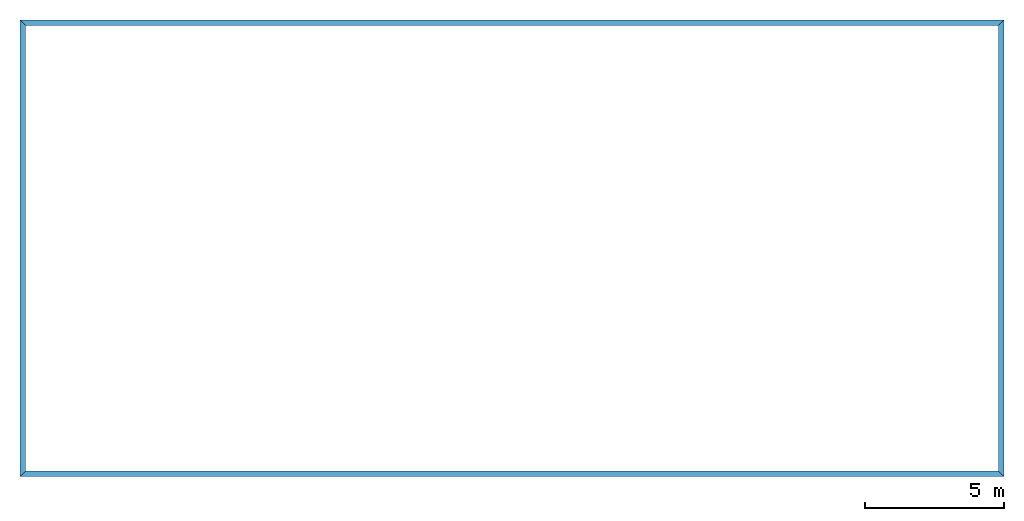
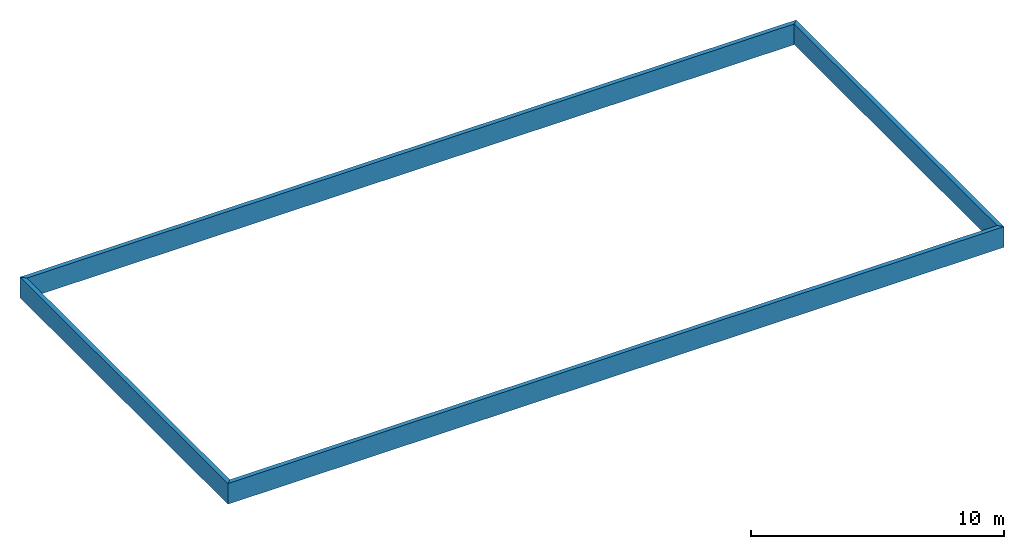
# One storey: 4 walls.
"""IFC2X3 building model written with IfcOpenShell, lengths in metres."""

from ifc_helpers import new_model, entity, si_unit, converted_unit, derived_unit, money_unit, direction, frame, origin_with_axes, place, context, subcontext, project, spatial, polyline, outline, extrude, material, layer, layer_set, layer_usage, type_object, element, save


model = new_model("IFC2X3")

# Units and contexts
model_context = context("Model", 3, precision=1e-05, world=origin_with_axes(), true_north=direction((0.0, 1.0)))
body_context = subcontext(model_context, "Body", "Model", "MODEL_VIEW")
ifc_project = project(units=[si_unit("LENGTHUNIT", "METRE"), si_unit("AREAUNIT", "SQUARE_METRE"), si_unit("VOLUMEUNIT", "CUBIC_METRE"), converted_unit("PLANEANGLEUNIT", "DEGREE", entity("IfcPlaneAngleMeasure", 0.0174532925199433), si_unit("PLANEANGLEUNIT", "RADIAN"), dimensions=[0, 0, 0, 0, 0, 0, 0]), money_unit("EUR"), converted_unit("TIMEUNIT", "Year", entity("IfcTimeMeasure", 31557600.0), si_unit("TIMEUNIT", "SECOND"), dimensions=[0, 0, 1, 0, 0, 0, 0]), si_unit("MASSUNIT", "GRAM", prefix="KILO"), si_unit("THERMODYNAMICTEMPERATUREUNIT", "DEGREE_CELSIUS"), si_unit("LUMINOUSINTENSITYUNIT", "LUMEN"), si_unit("ENERGYUNIT", "JOULE", prefix="MEGA"), derived_unit("THERMALCONDUCTANCEUNIT", [(si_unit("POWERUNIT", "WATT"), 1), (si_unit("LENGTHUNIT", "METRE"), -1), (si_unit("THERMODYNAMICTEMPERATUREUNIT", "KELVIN"), -1)]), derived_unit("SPECIFICHEATCAPACITYUNIT", [(si_unit("ENERGYUNIT", "JOULE"), 1), (si_unit("MASSUNIT", "GRAM", prefix="KILO"), -1), (si_unit("THERMODYNAMICTEMPERATUREUNIT", "KELVIN"), -1)]), derived_unit("MASSDENSITYUNIT", [(si_unit("MASSUNIT", "GRAM", prefix="KILO"), 1), (si_unit("VOLUMEUNIT", "CUBIC_METRE"), -1)])], contexts=[model_context])

# Site, building, storey
site_placement = place(None, origin_with_axes())
site = spatial("IfcSite", under=ifc_project, at=site_placement, Name="Site", CompositionType="ELEMENT")
building_placement = place(site_placement, origin_with_axes())
building = spatial("IfcBuilding", under=site, at=building_placement, Name="Bâtiment", CompositionType="ELEMENT")
storey_placement = place(building_placement, frame((0.0, 0.0, -3.0), z_axis=(0.0, 0.0, 1.0), x_axis=(1.0, 0.0, 0.0)))
storey = spatial("IfcBuildingStorey", under=building, at=storey_placement, Name="R-1", CompositionType="ELEMENT", Elevation=-3.0)

# Walls
ifc_material = material(Name="Béton")
ifc_layer = layer(ifc_material, 0.2, ventilated="UNKNOWN")
ifc_layer_set = layer_set([ifc_layer], Name="Béton 0.2")
ifc_layer_usage_1 = layer_usage(ifc_layer_set, "AXIS2", "NEGATIVE", 0.1)
wall_type = type_object("IfcWallType", Name="Béton 200", PredefinedType="NOTDEFINED")
wall_1_placement = place(storey_placement, frame((24.82200014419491, -10.97956227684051, 2.0), z_axis=(0.0, 0.0, 1.0), x_axis=(0.0, -1.0, 0.0)))
element("IfcWallStandardCase", 1, at=wall_1_placement, inside=storey, type_object=wall_type, material=ifc_layer_usage_1, Name="MC_AGL_Ext-059", context=body_context, shape_type="SweptSolid", body=[
    extrude(outline(polyline([(-0.1000000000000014, -0.1000000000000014), (16.35599973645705, -0.1000000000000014), (16.15599973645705, 0.09999999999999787), (0.1000000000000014, 0.09999999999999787), (-0.1000000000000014, -0.1000000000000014)])), origin_with_axes(), (0.0, 0.0, 1.0), 1.0),
])
ifc_layer_usage_2 = layer_usage(ifc_layer_set, "AXIS2", "NEGATIVE", 0.1)
wall_2_placement = place(storey_placement, frame((60.07799984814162, -27.23556201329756, 2.0), z_axis=(0.0, 0.0, 1.0), x_axis=(0.0, 1.0, 0.0)))
element("IfcWallStandardCase", 2, at=wall_2_placement, inside=storey, type_object=wall_type, material=ifc_layer_usage_2, Name="MC_AGL_Ext-057", context=body_context, shape_type="SweptSolid", body=[
    extrude(outline(polyline([(-0.1000000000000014, -0.1000000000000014), (16.35599973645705, -0.1000000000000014), (16.15599973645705, 0.1000000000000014), (0.09999999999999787, 0.1000000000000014), (-0.1000000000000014, -0.1000000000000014)])), origin_with_axes(), (0.0, 0.0, 1.0), 1.0),
])
ifc_layer_usage_3 = layer_usage(ifc_layer_set, "AXIS2", "NEGATIVE", 0.1)
wall_3_placement = place(storey_placement, frame((24.82200014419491, -27.23556201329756, 2.0), z_axis=(0.0, 0.0, 1.0), x_axis=(1.0, 0.0, 0.0)))
element("IfcWallStandardCase", 3, at=wall_3_placement, inside=storey, type_object=wall_type, material=ifc_layer_usage_3, Name="MC_AGL_Ext-056", context=body_context, shape_type="SweptSolid", body=[
    extrude(outline(polyline([(-0.1000000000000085, -0.1000000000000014), (35.35599970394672, -0.1000000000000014), (35.15599970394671, 0.09999999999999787), (0.09999999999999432, 0.09999999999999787), (-0.1000000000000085, -0.1000000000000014)])), origin_with_axes(), (0.0, 0.0, 1.0), 1.0),
])
ifc_layer_usage_4 = layer_usage(ifc_layer_set, "AXIS2", "NEGATIVE", 0.1)
wall_4_placement = place(storey_placement, frame((60.07799984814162, -10.97956227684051, 2.0), z_axis=(0.0, 0.0, 1.0), x_axis=(-1.0, 0.0, 0.0)))
element("IfcWallStandardCase", 4, at=wall_4_placement, inside=storey, type_object=wall_type, material=ifc_layer_usage_4, Name="MC_AGL_Ext-058", context=body_context, shape_type="SweptSolid", body=[
    extrude(outline(polyline([(-0.1000000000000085, -0.09999999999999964), (35.35599970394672, -0.09999999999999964), (35.15599970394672, 0.09999999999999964), (0.1000000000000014, 0.09999999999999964), (-0.1000000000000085, -0.09999999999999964)])), origin_with_axes(), (0.0, 0.0, 1.0), 1.0),
])

save(model, "model.ifc")
